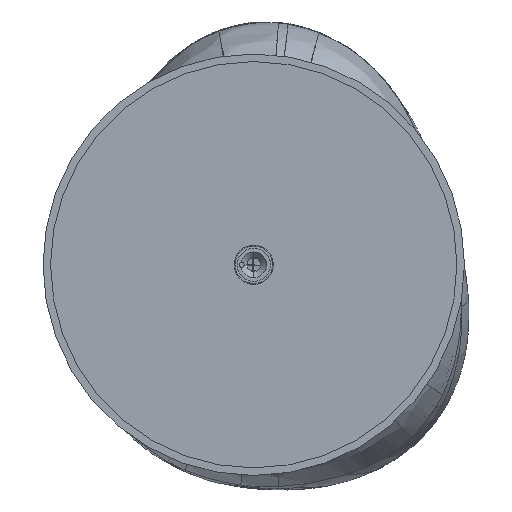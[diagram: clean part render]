
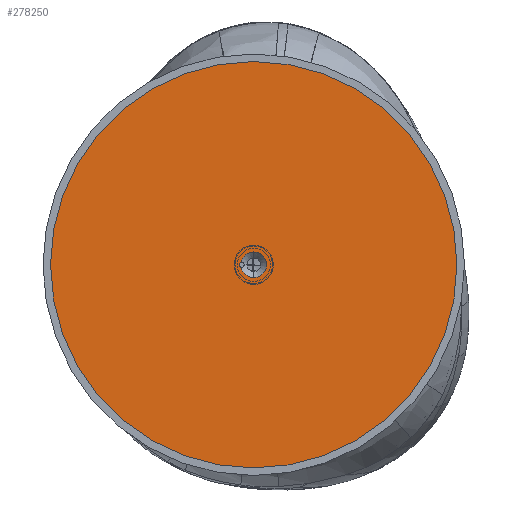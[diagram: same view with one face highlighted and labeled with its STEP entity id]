
A CAD part, front view. The second image highlights one B-rep face of the part: STEP entity #278250.
In plain terms, the highlighted planar face has unit normal (0, -1, 0).
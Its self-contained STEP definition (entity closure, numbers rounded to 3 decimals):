
#1429 = CARTESIAN_POINT ( 'NONE',  ( 0., 0., -135. ) ) ;
#2237 = AXIS2_PLACEMENT_3D ( 'NONE', #74424, #56957, #250921 ) ;
#8295 = ORIENTED_EDGE ( 'NONE', *, *, #201589, .T. ) ;
#8686 = ORIENTED_EDGE ( 'NONE', *, *, #103851, .F. ) ;
#11126 = ORIENTED_EDGE ( 'NONE', *, *, #161101, .F. ) ;
#23729 = DIRECTION ( 'NONE',  ( 0., 0., 1. ) ) ;
#31971 = CIRCLE ( 'NONE', #221410, 135. ) ;
#35971 = AXIS2_PLACEMENT_3D ( 'NONE', #91695, #67135, #23729 ) ;
#40623 = CARTESIAN_POINT ( 'NONE',  ( 0., 0., 8.5 ) ) ;
#51322 = CARTESIAN_POINT ( 'NONE',  ( -8.345, 0., -1.613 ) ) ;
#56957 = DIRECTION ( 'NONE',  ( 0., 1., 0. ) ) ;
#61540 = AXIS2_PLACEMENT_3D ( 'NONE', #209284, #187578, #275815 ) ;
#67135 = DIRECTION ( 'NONE',  ( 0., 1., 0. ) ) ;
#73783 = VERTEX_POINT ( 'NONE', #40623 ) ;
#74424 = CARTESIAN_POINT ( 'NONE',  ( 0., 0., 0. ) ) ;
#82232 = AXIS2_PLACEMENT_3D ( 'NONE', #259106, #225696, #157721 ) ;
#86325 = CIRCLE ( 'NONE', #109444, 135. ) ;
#90273 = EDGE_LOOP ( 'NONE', ( #185219, #8295, #263773, #188724 ) ) ;
#91695 = CARTESIAN_POINT ( 'NONE',  ( 0., 0., 0. ) ) ;
#103851 = EDGE_CURVE ( 'NONE', #151245, #130005, #31971, .T. ) ;
#109444 = AXIS2_PLACEMENT_3D ( 'NONE', #263218, #148939, #219809 ) ;
#113946 = AXIS2_PLACEMENT_3D ( 'NONE', #224076, #225501, #137222 ) ;
#114460 = CIRCLE ( 'NONE', #35971, 8.5 ) ;
#116737 = PLANE ( 'NONE',  #61540 ) ;
#123601 = CARTESIAN_POINT ( 'NONE',  ( 0., 0., 0. ) ) ;
#130005 = VERTEX_POINT ( 'NONE', #257615 ) ;
#133937 = VERTEX_POINT ( 'NONE', #234611 ) ;
#137222 = DIRECTION ( 'NONE',  ( 0., 0., 1. ) ) ;
#137897 = EDGE_LOOP ( 'NONE', ( #8686, #11126 ) ) ;
#148939 = DIRECTION ( 'NONE',  ( 0., 1., 0. ) ) ;
#151245 = VERTEX_POINT ( 'NONE', #1429 ) ;
#157721 = DIRECTION ( 'NONE',  ( 0., 0., 1. ) ) ;
#161101 = EDGE_CURVE ( 'NONE', #130005, #151245, #86325, .T. ) ;
#168468 = DIRECTION ( 'NONE',  ( 0., 0., 1. ) ) ;
#185219 = ORIENTED_EDGE ( 'NONE', *, *, #253761, .T. ) ;
#187578 = DIRECTION ( 'NONE',  ( 0., 1., 0. ) ) ;
#188724 = ORIENTED_EDGE ( 'NONE', *, *, #205185, .T. ) ;
#201589 = EDGE_CURVE ( 'NONE', #73783, #133937, #114460, .T. ) ;
#205185 = EDGE_CURVE ( 'NONE', #210858, #274861, #211544, .T. ) ;
#209284 = CARTESIAN_POINT ( 'NONE',  ( 0., 0., 0. ) ) ;
#210709 = FACE_OUTER_BOUND ( 'NONE', #137897, .T. ) ;
#210858 = VERTEX_POINT ( 'NONE', #51322 ) ;
#211544 = CIRCLE ( 'NONE', #82232, 1.65 ) ;
#213314 = DIRECTION ( 'NONE',  ( 0., 1., 0. ) ) ;
#219809 = DIRECTION ( 'NONE',  ( 0., 0., 1. ) ) ;
#221410 = AXIS2_PLACEMENT_3D ( 'NONE', #123601, #213314, #168468 ) ;
#224076 = CARTESIAN_POINT ( 'NONE',  ( 0., 0., 0. ) ) ;
#225501 = DIRECTION ( 'NONE',  ( 0., 1., 0. ) ) ;
#225696 = DIRECTION ( 'NONE',  ( 0., 1., 0. ) ) ;
#230988 = FACE_BOUND ( 'NONE', #90273, .T. ) ;
#234611 = CARTESIAN_POINT ( 'NONE',  ( 0., 0., -8.5 ) ) ;
#241398 = CARTESIAN_POINT ( 'NONE',  ( -8.345, 0., 1.613 ) ) ;
#250921 = DIRECTION ( 'NONE',  ( 0., 0., 1. ) ) ;
#253761 = EDGE_CURVE ( 'NONE', #274861, #73783, #274851, .T. ) ;
#257615 = CARTESIAN_POINT ( 'NONE',  ( 0., 0., 135. ) ) ;
#259106 = CARTESIAN_POINT ( 'NONE',  ( -8., 0., 0. ) ) ;
#261843 = CIRCLE ( 'NONE', #113946, 8.5 ) ;
#263218 = CARTESIAN_POINT ( 'NONE',  ( 0., 0., 0. ) ) ;
#263773 = ORIENTED_EDGE ( 'NONE', *, *, #270827, .T. ) ;
#270827 = EDGE_CURVE ( 'NONE', #133937, #210858, #261843, .T. ) ;
#274851 = CIRCLE ( 'NONE', #2237, 8.5 ) ;
#274861 = VERTEX_POINT ( 'NONE', #241398 ) ;
#275815 = DIRECTION ( 'NONE',  ( 0., 0., 1. ) ) ;
#278250 = ADVANCED_FACE ( 'NONE', ( #230988, #210709 ), #116737, .F. ) ;
